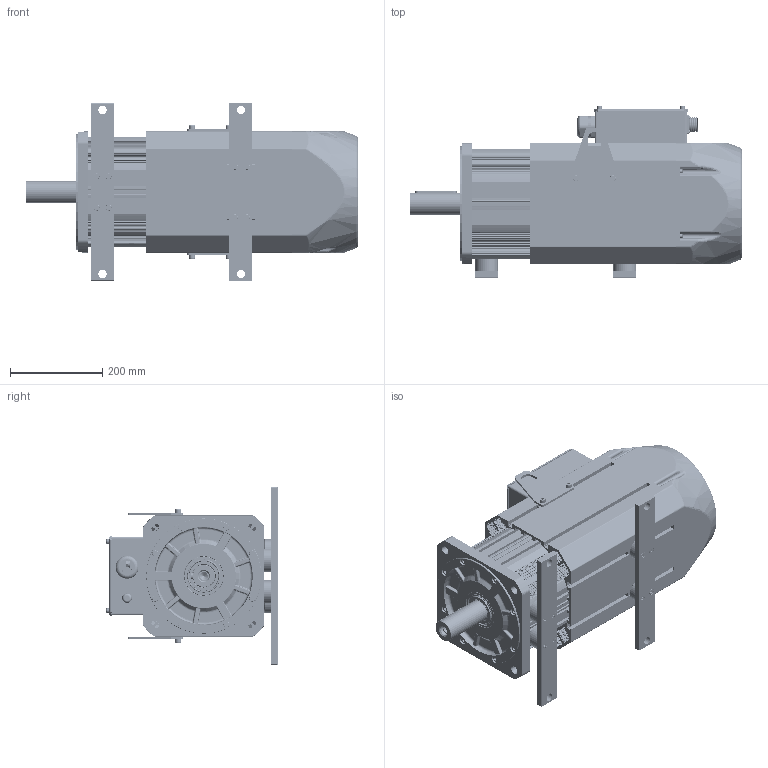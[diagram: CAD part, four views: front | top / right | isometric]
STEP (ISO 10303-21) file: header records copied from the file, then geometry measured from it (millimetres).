
FILE_DESCRIPTION((''),'2;1');
FILE_NAME('IMS20B-26M74D20C-4-R7F-A_ASM','2025-08-25T10:11:58',('0108698'),(''),'CREO PARAMETRIC BY PTC INC, 2019080','CREO PARAMETRIC BY PTC INC, 2019080','');
FILE_SCHEMA(('CONFIG_CONTROL_DESIGN'));
Products named in the file (72): 263T360_A; 631000; 80100320_AF0; 2630002_ASM; 2630003; 2630004; M6X160001; 50058-00152_AF0; 2630001_ASM; 263559_A; 2630005_ASM; 80100323_AF0; 263000_ASM; 50057-00008; 50036-00052; 50060-00059; 2630007_ASM; 2630009; 15000; 2630008_ASM; 50034-00098; _0001; 0001; 50051-00002; PDLD_4X12; 2630011; 00; M8X3000; 800; 0003; 0004; L990001; 2630010_ASM; 0005; ISO7045-M4X6-4_8; 0006; ISO7045-M4X8-4_8; WXJXDZ_40200-01002; 0007; _0002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
Assembly tree (142 placements, depth 4):
  IMS20B-26M74D20C-4-R7F-A_ASM
    2630001_ASM
      263T360_A
      631000
      2630002_ASM
        80100320_AF0
      2630003
      2630004
      M6X160001  x6
      50058-00152_AF0
    2630005_ASM
      263559_A
    263000_ASM
      80100323_AF0
    2630007_ASM
      50057-00008
      50036-00052
      50060-00059  x4
    2630008_ASM
      2630009
      15000
    50034-00098
    12116-00061_ASM
      _0001
      0001
      50051-00002
      PDLD_4X12  x4
      2630010_ASM
        2630011
        00  x3
        M8X3000  x6
        800  x6
        800  x6
        0003  x4
        0004
        L990001
      0005
      ISO7045-M4X6-4_8  x2
      0006
      ISO7045-M4X8-4_8
      WXJXDZ_40200-01002  x4
      0007
      _0002
      50060-00134  x4
      0008
      PG11
      PG36
    50034-00031  x2
    50034-00026  x2
    50058-00151_AF0
    50060-00071  x4
    50058-00152_AF1
    50060-00135  x4
    50058-00150
    50066-00059
    50060-00076  x4
    12118-00004_ASM
      80310919
      50034-00012
      80310916  x2
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Bounding box: 720 x 371 x 384 mm (x, y, z)
Volume: 14921203 mm3; surface area: 3578610.5 mm2
Topology: 148 solids, 260 shells, 7714 faces, 20132 edges, 13031 vertices
Faces by surface type: plane 3573, cylinder 2778, cone 505, bspline 481, torus 329, revolution 24, sphere 24
Entity records: 228573 total; most frequent: CARTESIAN_POINT 70670, DIRECTION 33163, ORIENTED_EDGE 32704, EDGE_CURVE 16484, AXIS2_PLACEMENT_3D 11953, VERTEX_POINT 10717, VECTOR 9233, LINE 9233
